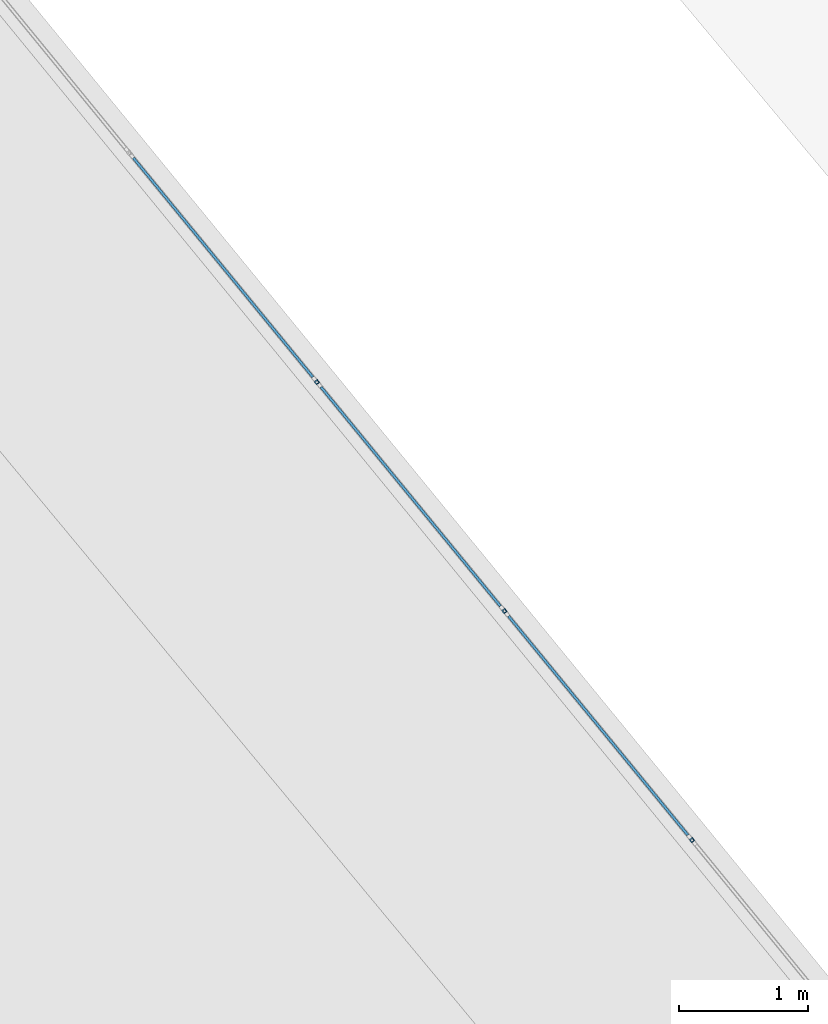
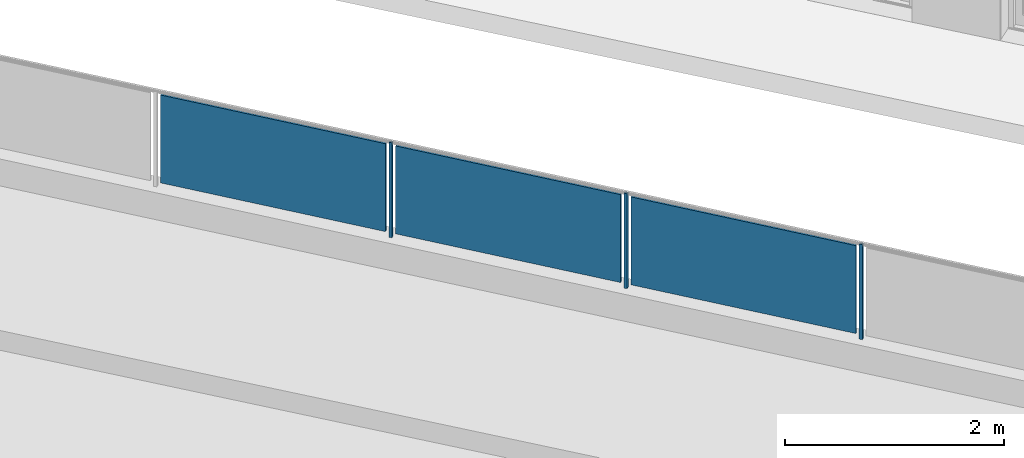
# One storey, part 20 of 75: 6 building element parts, 1 element without a shape of its own.
"""IFC4 building model written with IfcOpenShell, lengths in metres."""

from ifc_helpers import new_model, entity, si_unit, converted_unit, derived_unit, direction, frame, origin_with_axes, place, context, subcontext, project, spatial, polygons, material, type_object, element, aggregate, save


model = new_model("IFC4")

# Units and contexts
model_context = context("Model", 3, precision=1e-05, world=origin_with_axes(), true_north=direction((0.0, 1.0)))
body_context = subcontext(model_context, "Body", "Model", "MODEL_VIEW")
ifc_project = project(units=[si_unit("LENGTHUNIT", "METRE"), si_unit("AREAUNIT", "SQUARE_METRE"), si_unit("VOLUMEUNIT", "CUBIC_METRE"), converted_unit("PLANEANGLEUNIT", "DEGREE", entity("IfcPlaneAngleMeasure", 0.0174532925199), si_unit("PLANEANGLEUNIT", "RADIAN"), dimensions=[0, 0, 0, 0, 0, 0, 0]), converted_unit("TIMEUNIT", "Year", entity("IfcTimeMeasure", 31556926.0), si_unit("TIMEUNIT", "SECOND"), dimensions=[0, 0, 1, 0, 0, 0, 0]), si_unit("MASSUNIT", "GRAM", prefix="KILO"), si_unit("THERMODYNAMICTEMPERATUREUNIT", "DEGREE_CELSIUS"), si_unit("LUMINOUSINTENSITYUNIT", "LUMEN"), si_unit("ENERGYUNIT", "JOULE", prefix="MEGA"), derived_unit("THERMALCONDUCTANCEUNIT", [(si_unit("POWERUNIT", "WATT"), 1), (si_unit("LENGTHUNIT", "METRE"), -1), (si_unit("THERMODYNAMICTEMPERATUREUNIT", "KELVIN"), -1)]), derived_unit("SPECIFICHEATCAPACITYUNIT", [(si_unit("ENERGYUNIT", "JOULE"), 1), (si_unit("MASSUNIT", "GRAM", prefix="KILO"), -1), (si_unit("THERMODYNAMICTEMPERATUREUNIT", "KELVIN"), -1)]), derived_unit("MASSDENSITYUNIT", [(si_unit("MASSUNIT", "GRAM", prefix="KILO"), 1), (si_unit("VOLUMEUNIT", "CUBIC_METRE"), -1)])], contexts=[model_context])

# Site, building, storey
site_placement = place(None, frame((-0.00153261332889, -0.00661245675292, 0.0), z_axis=(0.0, 0.0, 1.0), x_axis=(1.0, 0.0, 0.0)))
site = spatial("IfcSite", under=ifc_project, at=site_placement, Name="Gelände", CompositionType="ELEMENT")
building_placement = place(site_placement, origin_with_axes())
building = spatial("IfcBuilding", under=site, at=building_placement, Name="Gebäude", CompositionType="ELEMENT")
storey_placement = place(building_placement, frame((0.0, 0.0, -0.22), z_axis=(0.0, 0.0, 1.0), x_axis=(1.0, 0.0, 0.0)))
storey = spatial("IfcBuildingStorey", under=building, at=storey_placement, Name="EG", CompositionType="ELEMENT", Elevation=-0.22)

# Railing, building element parts
railing_type = type_object("IfcRailingType", Name="Geländerart", PredefinedType="NOTDEFINED")
railing_placement = place(storey_placement, frame((-12.1608341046, 23.557810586, 0.523948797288), z_axis=(0.0, 0.0, 1.0), x_axis=(1.0, 0.0, 0.0)))
railing = element("IfcRailing", 1, at=railing_placement, inside=storey, type_object=railing_type, Name="Geländer - 001", PredefinedType="NOTDEFINED")
ifc_material_1 = material(Name="Zaun")
building_element_part_1_placement = place(railing_placement, origin_with_axes())
building_element_part_1 = element("IfcBuildingElementPart", 2, at=building_element_part_1_placement, material=ifc_material_1, Name="Zaun", PredefinedType="NOTDEFINED", context=body_context, shape_type="Tessellation", body=[
    polygons([(1.97196248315, -10.9307596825, 0.05), (0.581046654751, -9.2318628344, 0.05), (0.581046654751, -9.2318628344, 1.03), (1.97196248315, -10.9307596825, 1.03), (0.56557156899, -9.24453255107, 0.05), (1.95648739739, -10.9434293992, 0.05), (0.56557156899, -9.24453255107, 1.03), (1.95648739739, -10.9434293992, 1.03)], [[[1, 2, 3, 4]], [[5, 2, 1, 6]], [[7, 3, 2, 5]], [[4, 3, 7, 8]], [[1, 4, 8, 6]], [[7, 5, 6, 8]]], closed=True),
])
ifc_material_2 = material(Name="Aluminium")
building_element_part_2_placement = place(railing_placement, origin_with_axes())
building_element_part_2 = element("IfcBuildingElementPart", 3, at=building_element_part_2_placement, material=ifc_material_2, Name="Aluminium", PredefinedType="NOTDEFINED", context=body_context, shape_type="Tessellation", body=[
    polygons([(1.99379520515, -10.9968908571, 0.0), (2.01700783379, -10.9778862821, 0.0), (2.01700783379, -10.9778862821, 1.06), (1.99379520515, -10.9968908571, 1.06), (1.97479063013, -10.9736782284, 0.0), (1.99800325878, -10.9546736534, 0.0), (1.99449654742, -10.9898546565, 0.0), (2.00997163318, -10.9771849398, 0.0), (1.9973019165, -10.961709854, 0.0), (1.98182683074, -10.9743795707, 0.0), (1.99800325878, -10.9546736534, 1.06), (1.97479063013, -10.9736782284, 1.06), (1.99449654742, -10.9898546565, 1.06), (1.98182683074, -10.9743795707, 1.06), (1.9973019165, -10.961709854, 1.06), (2.00997163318, -10.9771849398, 1.06)], [[[1, 2, 3, 4]], [[1, 5, 6, 2], [7, 8, 9, 10]], [[2, 6, 11, 3]], [[4, 3, 11, 12], [13, 14, 15, 16]], [[5, 1, 4, 12]], [[6, 5, 12, 11]], [[8, 7, 13, 16]], [[9, 8, 16, 15]], [[10, 9, 15, 14]], [[7, 10, 14, 13]]], closed=True),
])
building_element_part_3_placement = place(railing_placement, origin_with_axes())
building_element_part_3 = element("IfcBuildingElementPart", 4, at=building_element_part_3_placement, material=ifc_material_1, Name="Zaun", PredefinedType="NOTDEFINED", context=body_context, shape_type="Tessellation", body=[
    polygons([(3.42622689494, -12.7070319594, 0.05), (2.03531106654, -11.0081351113, 0.05), (2.03531106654, -11.0081351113, 1.03), (3.42622689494, -12.7070319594, 1.03), (2.01983598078, -11.020804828, 0.05), (3.41075180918, -12.7197016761, 0.05), (2.01983598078, -11.020804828, 1.03), (3.41075180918, -12.7197016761, 1.03)], [[[1, 2, 3, 4]], [[5, 2, 1, 6]], [[7, 3, 2, 5]], [[4, 3, 7, 8]], [[1, 4, 8, 6]], [[7, 5, 6, 8]]], closed=True),
])
building_element_part_4_placement = place(railing_placement, origin_with_axes())
building_element_part_4 = element("IfcBuildingElementPart", 5, at=building_element_part_4_placement, material=ifc_material_2, Name="Aluminium", PredefinedType="NOTDEFINED", context=body_context, shape_type="Tessellation", body=[
    polygons([(3.44805961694, -12.773163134, 0.0), (3.47127224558, -12.754158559, 0.0), (3.47127224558, -12.754158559, 1.06), (3.44805961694, -12.773163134, 1.06), (3.42905504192, -12.7499505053, 0.0), (3.45226767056, -12.7309459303, 0.0), (3.44876095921, -12.7661269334, 0.0), (3.46423604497, -12.7534572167, 0.0), (3.45156632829, -12.7379821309, 0.0), (3.43609124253, -12.7506518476, 0.0), (3.45226767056, -12.7309459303, 1.06), (3.42905504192, -12.7499505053, 1.06), (3.44876095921, -12.7661269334, 1.06), (3.43609124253, -12.7506518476, 1.06), (3.45156632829, -12.7379821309, 1.06), (3.46423604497, -12.7534572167, 1.06)], [[[1, 2, 3, 4]], [[1, 5, 6, 2], [7, 8, 9, 10]], [[2, 6, 11, 3]], [[4, 3, 11, 12], [13, 14, 15, 16]], [[5, 1, 4, 12]], [[6, 5, 12, 11]], [[8, 7, 13, 16]], [[9, 8, 16, 15]], [[10, 9, 15, 14]], [[7, 10, 14, 13]]], closed=True),
])
building_element_part_5_placement = place(railing_placement, origin_with_axes())
building_element_part_5 = element("IfcBuildingElementPart", 6, at=building_element_part_5_placement, material=ifc_material_1, Name="Zaun", PredefinedType="NOTDEFINED", context=body_context, shape_type="Tessellation", body=[
    polygons([(4.88049130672, -14.4833042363, 0.05), (3.48957547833, -12.7844073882, 0.05), (3.48957547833, -12.7844073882, 1.03), (4.88049130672, -14.4833042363, 1.03), (3.47410039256, -12.7970771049, 0.05), (4.86501622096, -14.495973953, 0.05), (3.47410039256, -12.7970771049, 1.03), (4.86501622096, -14.495973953, 1.03)], [[[1, 2, 3, 4]], [[5, 2, 1, 6]], [[7, 3, 2, 5]], [[4, 3, 7, 8]], [[1, 4, 8, 6]], [[7, 5, 6, 8]]], closed=True),
])
building_element_part_6_placement = place(railing_placement, origin_with_axes())
building_element_part_6 = element("IfcBuildingElementPart", 7, at=building_element_part_6_placement, material=ifc_material_2, Name="Aluminium", PredefinedType="NOTDEFINED", context=body_context, shape_type="Tessellation", body=[
    polygons([(4.90232402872, -14.5494354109, 0.0), (4.92553665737, -14.5304308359, 0.0), (4.92553665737, -14.5304308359, 1.06), (4.90232402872, -14.5494354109, 1.06), (4.88331945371, -14.5262227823, 0.0), (4.90653208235, -14.5072182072, 0.0), (4.903025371, -14.5423992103, 0.0), (4.91850045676, -14.5297294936, 0.0), (4.90583074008, -14.5142544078, 0.0), (4.89035565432, -14.5269241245, 0.0), (4.90653208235, -14.5072182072, 1.06), (4.88331945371, -14.5262227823, 1.06), (4.903025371, -14.5423992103, 1.06), (4.89035565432, -14.5269241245, 1.06), (4.90583074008, -14.5142544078, 1.06), (4.91850045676, -14.5297294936, 1.06)], [[[1, 2, 3, 4]], [[1, 5, 6, 2], [7, 8, 9, 10]], [[2, 6, 11, 3]], [[4, 3, 11, 12], [13, 14, 15, 16]], [[5, 1, 4, 12]], [[6, 5, 12, 11]], [[8, 7, 13, 16]], [[9, 8, 16, 15]], [[10, 9, 15, 14]], [[7, 10, 14, 13]]], closed=True),
])
aggregate(railing, [building_element_part_1, building_element_part_2, building_element_part_3, building_element_part_4, building_element_part_5, building_element_part_6])

save(model, "model.ifc")
